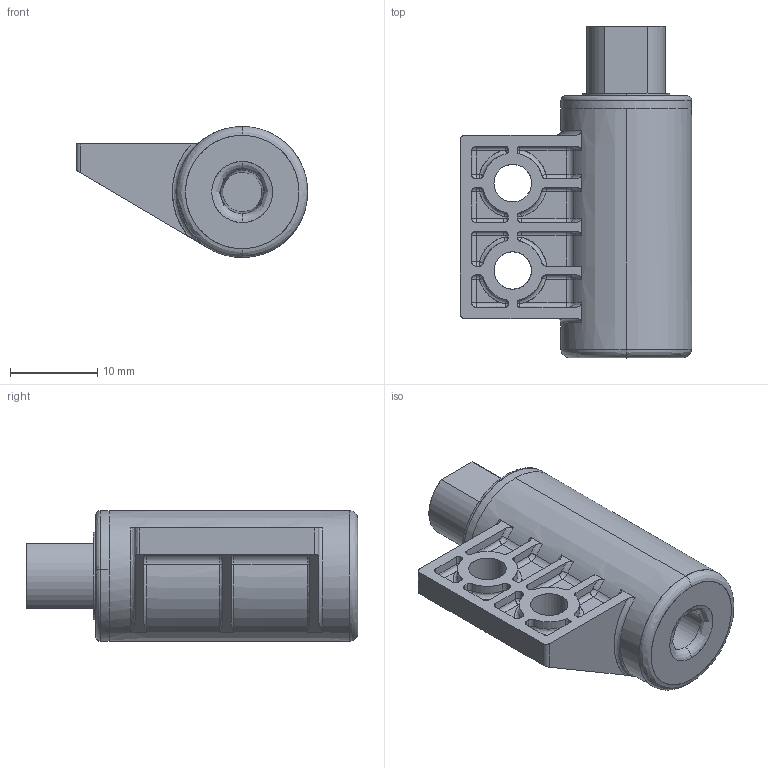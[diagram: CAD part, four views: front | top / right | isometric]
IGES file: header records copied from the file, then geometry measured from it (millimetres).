
Start section: SolidWorks IGES file using analytic representation for surfaces
Global section: file name: C:\3D-DATA\型式\R\【提出用】\IGS\FRT-N1.IGS; native system: SolidWorks 2014; preprocessor: SolidWorks 2014; author: flgijutsu; date: 140516.191915; units: millimetre
Bounding box: 26.5 x 38 x 15 mm (x, y, z)
Surface area: 3438 mm2 (no closed solid volume)
Topology: 0 solids, 0 shells, 235 faces, 2032 edges, 2005 vertices
Faces by surface type: revolution 120, bspline 115
